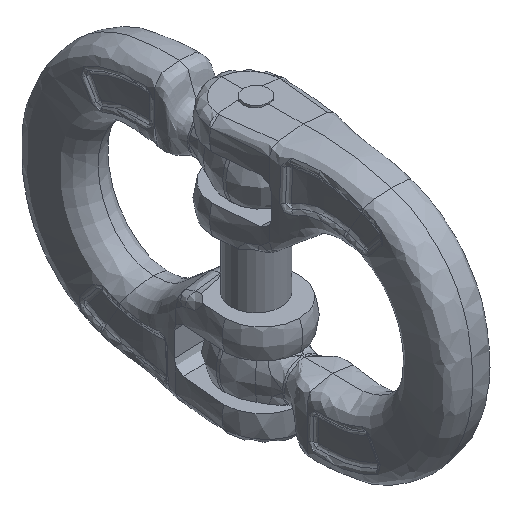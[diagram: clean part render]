
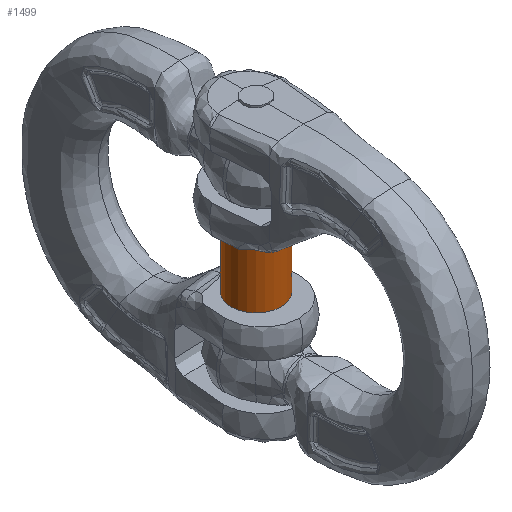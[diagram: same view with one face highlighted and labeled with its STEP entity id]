
A CAD part, isometric view. The second image highlights one B-rep face of the part: STEP entity #1499.
In plain terms, the highlighted cylindrical face has radius 5 mm (diameter 10 mm), a full revolution.
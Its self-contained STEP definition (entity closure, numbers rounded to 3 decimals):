
#1499=ADVANCED_FACE('',(#1887,#1888),#1872,.T.);
#1872=CYLINDRICAL_SURFACE('',#5802,5.);
#1887=FACE_BOUND('',#1921,.T.);
#1888=FACE_BOUND('',#1922,.T.);
#1921=EDGE_LOOP('',(#2319));
#1922=EDGE_LOOP('',(#2320));
#2319=ORIENTED_EDGE('',*,*,#4671,.F.);
#2320=ORIENTED_EDGE('',*,*,#4672,.T.);
#4123=VERTEX_POINT('',#6835);
#4124=VERTEX_POINT('',#6837);
#4671=EDGE_CURVE('',#4123,#4123,#5573,.T.);
#4672=EDGE_CURVE('',#4124,#4124,#5574,.T.);
#5573=CIRCLE('',#5800,5.);
#5574=CIRCLE('',#5801,5.);
#5800=AXIS2_PLACEMENT_3D('',#6834,#6133,#6134);
#5801=AXIS2_PLACEMENT_3D('',#6836,#6135,#6136);
#5802=AXIS2_PLACEMENT_3D('',#6838,#6137,#6138);
#6133=DIRECTION('',(0.,0.,1.));
#6134=DIRECTION('',(1.,0.,0.));
#6135=DIRECTION('',(0.,0.,1.));
#6136=DIRECTION('',(1.,0.,0.));
#6137=DIRECTION('',(0.,0.,-1.));
#6138=DIRECTION('',(-1.,0.,0.));
#6834=CARTESIAN_POINT('',(0.,-1.139,26.954));
#6835=CARTESIAN_POINT('',(5.,-1.139,26.954));
#6836=CARTESIAN_POINT('',(0.,-1.139,14.454));
#6837=CARTESIAN_POINT('',(5.,-1.139,14.454));
#6838=CARTESIAN_POINT('',(0.,-1.139,26.954));
